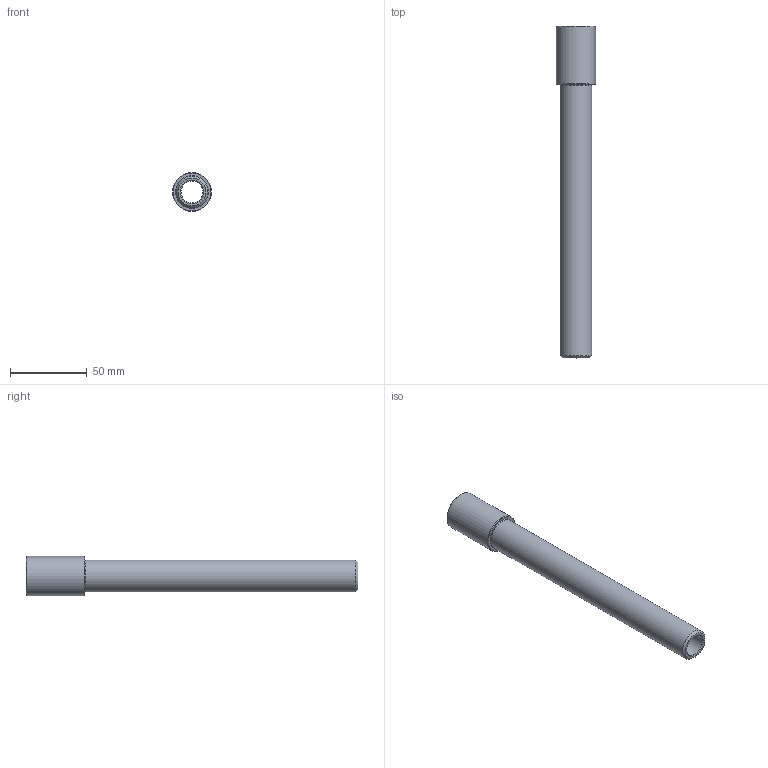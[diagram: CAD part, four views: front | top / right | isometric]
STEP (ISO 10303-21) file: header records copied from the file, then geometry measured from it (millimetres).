
FILE_DESCRIPTION(/* description */ (''),/* implementation_level */ '2;1');
FILE_NAME(/* name */ 'C:/Users/drich/Desktop/EP12X8-1_2 v1.step',/* time_stamp */ '2019-11-18T14:46:41-06:00',/* author */ (''),/* organization */ (''),/* preprocessor_version */ 'ST-DEVELOPER v18',/* originating_system */ 'Autodesk Translation Framework v8.12.0.6',/* authorisation */ '');
FILE_SCHEMA (('AUTOMOTIVE_DESIGN { 1 0 10303 214 3 1 1 }'));
Length unit declared in the file: inch
Products named in the file (2): EP12X8-1_2; EP12X4
Assembly tree (1 placements, depth 2):
  EP12X8-1_2
    EP12X4
Bounding box: 25.4 x 215.9 x 25.4 mm (x, y, z)
Volume: 42462.1 mm3; surface area: 25314.1 mm2
Topology: 1 solids, 1 shells, 23 faces, 55 edges, 37 vertices
Faces by surface type: plane 11, cone 7, cylinder 5
Full cylindrical faces by diameter (mm): 14.275 x1, 17.145 x1, 18.901 x1, 20.813 x1, 25.4 x1
Entity records: 740 total; most frequent: CARTESIAN_POINT 132, DIRECTION 124, ORIENTED_EDGE 110, EDGE_CURVE 55, AXIS2_PLACEMENT_3D 50, VERTEX_POINT 37, EDGE_LOOP 28, LINE 24
